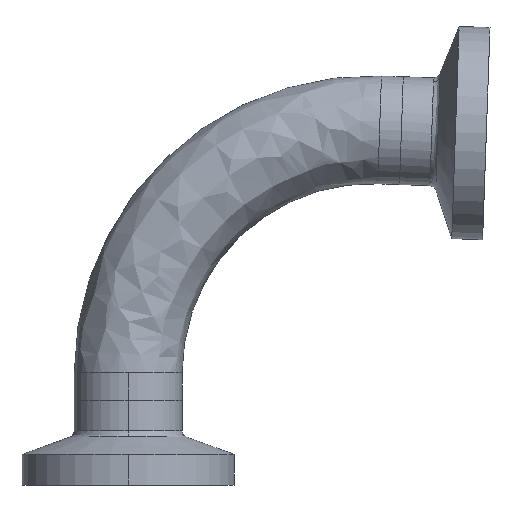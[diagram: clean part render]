
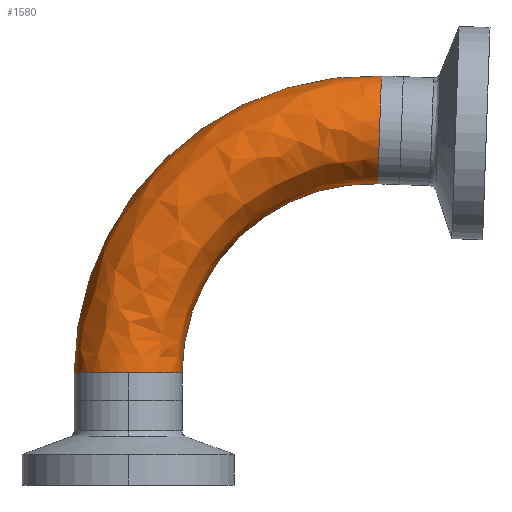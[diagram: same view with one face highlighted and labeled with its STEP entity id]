
A CAD part, top view. The second image highlights one B-rep face of the part: STEP entity #1580.
In plain terms, the highlighted free-form (B-spline) face has degree [3, 3] with [4, 4] control points.
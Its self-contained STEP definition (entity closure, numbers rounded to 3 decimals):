
#16 = AXIS2_PLACEMENT_3D ( 'NONE', #1802, #308, #1345 ) ;
#65 = CARTESIAN_POINT ( 'NONE',  ( -6.35, 3.256, 0. ) ) ;
#93 = CIRCLE ( 'NONE', #109, 6.35 ) ;
#95 = CARTESIAN_POINT ( 'NONE',  ( 8.788, 38.919, 12.7 ) ) ;
#109 = AXIS2_PLACEMENT_3D ( 'NONE', #1977, #1982, #1997 ) ;
#162 = ORIENTED_EDGE ( 'NONE', *, *, #1974, .T. ) ;
#170 = ORIENTED_EDGE ( 'NONE', *, *, #737, .T. ) ;
#173 = DIRECTION ( 'NONE',  ( -1., 0., 0. ) ) ;
#182 = CIRCLE ( 'NONE', #16, 34.95 ) ;
#194 = CARTESIAN_POINT ( 'NONE',  ( 0., 3.256, 0. ) ) ;
#216 = CARTESIAN_POINT ( 'NONE',  ( -6.35, 24.301, 12.7 ) ) ;
#269 = CARTESIAN_POINT ( 'NONE',  ( 15.987, 25.96, 12.7 ) ) ;
#305 = ORIENTED_EDGE ( 'NONE', *, *, #624, .T. ) ;
#308 = DIRECTION ( 'NONE',  ( 0., 0., -1. ) ) ;
#387 = CARTESIAN_POINT ( 'NONE',  ( -6.35, 3.256, 0. ) ) ;
#421 = FACE_OUTER_BOUND ( 'NONE', #1782, .T. ) ;
#428 = EDGE_CURVE ( 'NONE', #1498, #972, #93, .T. ) ;
#490 = CARTESIAN_POINT ( 'NONE',  ( 6.35, 16.653, 0. ) ) ;
#507 = CARTESIAN_POINT ( 'NONE',  ( 29.377, 25.493, 0. ) ) ;
#553 = DIRECTION ( 'NONE',  ( 0.035, 0.999, 0. ) ) ;
#556 = CARTESIAN_POINT ( 'NONE',  ( 29.598, 31.839, 0. ) ) ;
#559 = CARTESIAN_POINT ( 'NONE',  ( 6.35, 16.653, 12.7 ) ) ;
#586 = DIRECTION ( 'NONE',  ( 0., 1., 0. ) ) ;
#624 = EDGE_CURVE ( 'NONE', #2022, #898, #1819, .T. ) ;
#649 = DIRECTION ( 'NONE',  ( -0.999, 0.035, 0. ) ) ;
#730 = CARTESIAN_POINT ( 'NONE',  ( 29.377, 25.493, 12.7 ) ) ;
#737 = EDGE_CURVE ( 'NONE', #972, #2022, #1888, .T. ) ;
#779 = EDGE_CURVE ( 'NONE', #1155, #898, #182, .T. ) ;
#805 = ORIENTED_EDGE ( 'NONE', *, *, #428, .T. ) ;
#858 = DIRECTION ( 'NONE',  ( 0., 0., -1. ) ) ;
#898 = VERTEX_POINT ( 'NONE', #1366 ) ;
#972 = VERTEX_POINT ( 'NONE', #986 ) ;
#986 = CARTESIAN_POINT ( 'NONE',  ( 6.35, 3.256, 0. ) ) ;
#1062 = ORIENTED_EDGE ( 'NONE', *, *, #779, .F. ) ;
#1066 = CARTESIAN_POINT ( 'NONE',  ( 0., 3.256, 6.35 ) ) ;
#1155 = VERTEX_POINT ( 'NONE', #65 ) ;
#1191 = CARTESIAN_POINT ( 'NONE',  ( 6.35, 3.256, 0. ) ) ;
#1225 = CIRCLE ( 'NONE', #1616, 6.35 ) ;
#1236 = CARTESIAN_POINT ( 'NONE',  ( 29.82, 38.185, 0. ) ) ;
#1345 = DIRECTION ( 'NONE',  ( -1., 0., 0. ) ) ;
#1366 = CARTESIAN_POINT ( 'NONE',  ( 29.82, 38.185, 0. ) ) ;
#1389 = CARTESIAN_POINT ( 'NONE',  ( -6.35, 3.256, 12.7 ) ) ;
#1422 = CARTESIAN_POINT ( 'NONE',  ( 28.6, 3.256, 0. ) ) ;
#1423 = CARTESIAN_POINT ( 'NONE',  ( -6.35, 24.301, 0. ) ) ;
#1498 = VERTEX_POINT ( 'NONE', #1066 ) ;
#1511 = CARTESIAN_POINT ( 'NONE',  ( 15.987, 25.96, 0. ) ) ;
#1555 = CARTESIAN_POINT ( 'NONE',  ( 8.788, 38.919, 0. ) ) ;
#1580 = ADVANCED_FACE ( 'NONE', ( #421 ), #1842, .T. ) ;
#1616 = AXIS2_PLACEMENT_3D ( 'NONE', #194, #586, #173 ) ;
#1677 = CARTESIAN_POINT ( 'NONE',  ( 6.35, 3.256, 12.7 ) ) ;
#1683 = AXIS2_PLACEMENT_3D ( 'NONE', #1422, #858, #1712 ) ;
#1712 = DIRECTION ( 'NONE',  ( -1., 0., 0. ) ) ;
#1782 = EDGE_LOOP ( 'NONE', ( #805, #170, #305, #1062, #162 ) ) ;
#1802 = CARTESIAN_POINT ( 'NONE',  ( 28.6, 3.256, 0. ) ) ;
#1819 = CIRCLE ( 'NONE', #2049, 6.35 ) ;
#1842 =( BOUNDED_SURFACE ( )  B_SPLINE_SURFACE ( 3, 3, ( 
 ( #387, #1423, #1555, #1236 ),
 ( #1389, #216, #95, #1907 ),
 ( #1677, #559, #269, #730 ),
 ( #1191, #490, #1511, #507 ) ),
 .UNSPECIFIED., .F., .F., .T. ) 
 B_SPLINE_SURFACE_WITH_KNOTS ( ( 4, 4 ),
 ( 4, 4 ),
 ( 0., 1. ),
 ( 0., 1. ),
 .UNSPECIFIED. ) 
 GEOMETRIC_REPRESENTATION_ITEM ( )  RATIONAL_B_SPLINE_SURFACE ( (
 ( 1., 0.796, 0.796, 1.),
 ( 0.333, 0.265, 0.265, 0.333),
 ( 0.333, 0.265, 0.265, 0.333),
 ( 1., 0.796, 0.796, 1.) ) ) 
 REPRESENTATION_ITEM ( '' )  SURFACE ( )  );
#1888 = CIRCLE ( 'NONE', #1683, 22.25 ) ;
#1902 = CARTESIAN_POINT ( 'NONE',  ( 29.377, 25.493, 0. ) ) ;
#1907 = CARTESIAN_POINT ( 'NONE',  ( 29.82, 38.185, 12.7 ) ) ;
#1974 = EDGE_CURVE ( 'NONE', #1155, #1498, #1225, .T. ) ;
#1977 = CARTESIAN_POINT ( 'NONE',  ( 0., 3.256, 0. ) ) ;
#1982 = DIRECTION ( 'NONE',  ( 0., 1., 0. ) ) ;
#1997 = DIRECTION ( 'NONE',  ( -1., 0., 0. ) ) ;
#2022 = VERTEX_POINT ( 'NONE', #1902 ) ;
#2049 = AXIS2_PLACEMENT_3D ( 'NONE', #556, #649, #553 ) ;
